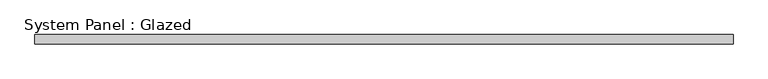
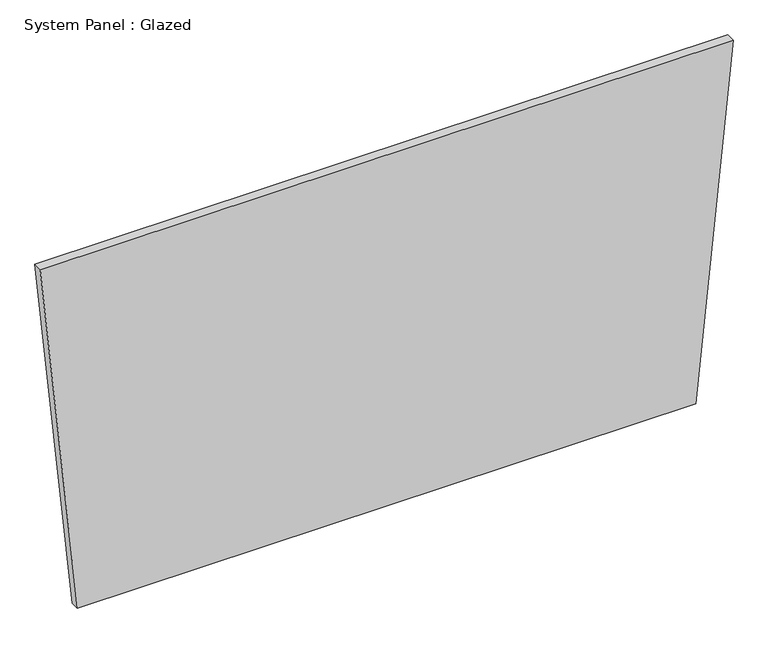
"""IFC4 building model written with IfcOpenShell, lengths in millimetres: plate geometry, System Panel : Glazed."""

import ifcopenshell
import ifcopenshell.guid

model = None  # the IFC model being written
_history = None  # IfcOwnerHistory: only IFC2X3 demands one
_inside = {}  # id of a spatial element -> (the spatial element, [elements in it])
_under = {}  # id of a project, library or spatial element -> (it, [spatial elements below it])
_declared = {}  # id of a project -> (the project, [libraries it declares])
_typed = {}  # id of a type object -> (the type object, [elements of that type])
_made_of = {}  # id of a material, layer set ... -> (it, [elements and type objects made of it])


def new_model(schema):
    """Start an empty IFC model of exactly this schema.

    Asked for "IFC4X3", IfcOpenShell would pick the latest addendum, in which some entities
    have other attributes; the version numbers below select the first issue.
    IFC2X3 requires an IfcOwnerHistory on every rooted entity: one is made here for all.
    """
    global model, _history
    if schema == "IFC4X3":
        model = ifcopenshell.file(schema_version=(4, 3, 0, 0))
    else:
        model = ifcopenshell.file(schema=schema)
    _inside.clear()
    _under.clear()
    _declared.clear()
    _typed.clear()
    _made_of.clear()
    _history = None
    if model.schema == "IFC2X3":
        org = make("IfcOrganization", Name="unknown")
        user = make(
            "IfcPersonAndOrganization",
            ThePerson=make("IfcPerson", FamilyName="unknown"),
            TheOrganization=org,
        )
        app = make(
            "IfcApplication",
            ApplicationDeveloper=org,
            Version="unknown",
            ApplicationFullName="unknown",
            ApplicationIdentifier="unknown",
        )
        _history = make(
            "IfcOwnerHistory",
            OwningUser=user,
            OwningApplication=app,
            ChangeAction="ADDED",
            CreationDate=0,
        )
    return model


def make(cls, **values):
    """One entity of the class cls with the attributes given. An attribute that is None is left unset."""
    return model.create_entity(
        cls, **{name: value for name, value in values.items() if value is not None}
    )


def rooted(cls, **values):
    """An entity with a GlobalId (a new one), such as an element, a storey or a relation."""
    return make(cls, GlobalId=ifcopenshell.guid.new(), OwnerHistory=_history, **values)


def si_unit(unit_type, name, prefix=None):
    """IfcSIUnit, for example si_unit("LENGTHUNIT", "METRE", prefix="MILLI")."""
    return make("IfcSIUnit", UnitType=unit_type, Prefix=prefix, Name=name)


def assignment(units):
    """IfcUnitAssignment: the units of a project."""
    return None if units is None else make("IfcUnitAssignment", Units=units)


def point(xyz):
    """IfcCartesianPoint."""
    return None if xyz is None else make("IfcCartesianPoint", Coordinates=xyz)


def direction(xyz):
    """IfcDirection."""
    return None if xyz is None else make("IfcDirection", DirectionRatios=xyz)


def frame(location, z_axis=None, x_axis=None):
    """IfcAxis2Placement3D, a coordinate frame: its origin and axes. An axis left out is left unset."""
    return make(
        "IfcAxis2Placement3D",
        Location=point(location),
        Axis=direction(z_axis),
        RefDirection=direction(x_axis),
    )


def origin():
    """The frame at (0, 0, 0) with its axes left unset."""
    return frame((0.0, 0.0, 0.0))


def place(relative_to, where):
    """IfcLocalPlacement: puts the frame where relative to a parent placement (None: the world)."""
    return make(
        "IfcLocalPlacement", PlacementRelTo=relative_to, RelativePlacement=where
    )


def context(
    kind, dimensions, precision=None, world=None, true_north=None, identifier=None
):
    """IfcGeometricRepresentationContext, for example the 3D "Model" context."""
    return make(
        "IfcGeometricRepresentationContext",
        ContextIdentifier=identifier,
        ContextType=kind,
        CoordinateSpaceDimension=dimensions,
        Precision=precision,
        WorldCoordinateSystem=world,
        TrueNorth=true_north,
    )


def project(units=None, contexts=None):
    """IfcProject with its units and contexts."""
    return rooted(
        "IfcProject",
        Name="project",
        RepresentationContexts=contexts,
        UnitsInContext=assignment(units),
    )


def spatial(cls, under=None, at=None, **own):
    """A site, building, storey or space (cls), placed at a placement, below another one or the project."""
    s = rooted(cls, ObjectPlacement=at, **own)
    if under is not None:
        _under.setdefault(under.id(), (under, []))[1].append(s)
    return s


def polyline(points):
    """IfcPolyline through the points."""
    return make("IfcPolyline", Points=[point(p) for p in points])


def outline(outer, holes=None, kind="AREA"):
    """IfcArbitraryClosedProfileDef: a profile drawn as a closed curve; with holes, ...WithVoids."""
    if holes is None:
        return make("IfcArbitraryClosedProfileDef", ProfileType=kind, OuterCurve=outer)
    return make(
        "IfcArbitraryProfileDefWithVoids",
        ProfileType=kind,
        OuterCurve=outer,
        InnerCurves=holes,
    )


def extrude(swept, where, along, depth):
    """IfcExtrudedAreaSolid: the profile swept, set in the frame where, extruded along a direction by depth."""
    return make(
        "IfcExtrudedAreaSolid",
        SweptArea=swept,
        Position=where,
        ExtrudedDirection=direction(along),
        Depth=depth,
    )


def shape(context_of_items, identifier, shape_type, items):
    """IfcShapeRepresentation: the items that make up one representation, for example the "Body"."""
    return make(
        "IfcShapeRepresentation",
        ContextOfItems=context_of_items,
        RepresentationIdentifier=identifier,
        RepresentationType=shape_type,
        Items=items,
    )


def source(mapping_origin, context_of_items, identifier, shape_type, items):
    """IfcRepresentationMap: a shape defined once, which mapped items show again and again."""
    return make(
        "IfcRepresentationMap",
        MappingOrigin=mapping_origin,
        MappedRepresentation=shape(context_of_items, identifier, shape_type, items),
    )


def transform(
    local_origin,
    x_axis=None,
    y_axis=None,
    z_axis=None,
    scale=None,
    scale2=None,
    scale3=None,
    uniform=True,
):
    """IfcCartesianTransformationOperator3D, or its non-uniform kind. x_axis, y_axis, z_axis: its Axis1, 2, 3."""
    if uniform:
        return make(
            "IfcCartesianTransformationOperator3D",
            Axis1=direction(x_axis),
            Axis2=direction(y_axis),
            LocalOrigin=point(local_origin),
            Scale=scale,
            Axis3=direction(z_axis),
        )
    return make(
        "IfcCartesianTransformationOperator3DnonUniform",
        Axis1=direction(x_axis),
        Axis2=direction(y_axis),
        LocalOrigin=point(local_origin),
        Scale=scale,
        Axis3=direction(z_axis),
        Scale2=scale2,
        Scale3=scale3,
    )


def mapped(mapping_source, mapping_target):
    """IfcMappedItem: shows the shape of a source again, moved by a transform."""
    return make(
        "IfcMappedItem", MappingSource=mapping_source, MappingTarget=mapping_target
    )


def made_of(thing, what):
    """Note that an element or type object is made of a material, layer set ...; save() writes the relation."""
    if what is not None:
        _made_of.setdefault(what.id(), (what, []))[1].append(thing)
    return thing


def element(
    cls,
    number,
    at=None,
    inside=None,
    cuts=None,
    type_object=None,
    material=None,
    context=None,
    identifier="Body",
    shape_type=None,
    held_by="IfcProductDefinitionShape",
    body=None,
    shapes=None,
    **own,
):
    """One element of the class cls, such as IfcWall. Its Tag is "e" and its number.

    at: its placement. inside: the storey or other place that contains it. cuts: it is an
    opening in that element (IfcRelVoidsElement). A single representation is given by context,
    identifier, shape_type and body (its items); several are given by shapes. held_by: the class
    of the entity that holds the representations. save() writes the other relations.
    """
    e = rooted(cls, Tag="e%d" % number, ObjectPlacement=at, **own)
    if body is not None:
        shapes = [shape(context, identifier, shape_type, body)]
    if shapes is not None:
        e.Representation = make(held_by, Representations=shapes)
    if inside is not None:
        _inside.setdefault(inside.id(), (inside, []))[1].append(e)
    if cuts is not None:
        rooted(
            "IfcRelVoidsElement", RelatingBuildingElement=cuts, RelatedOpeningElement=e
        )
    if type_object is not None:
        _typed.setdefault(type_object.id(), (type_object, []))[1].append(e)
    return made_of(e, material)


def aggregate(whole, parts):
    """IfcRelAggregates: a whole, such as a stair, and the parts it consists of."""
    return rooted("IfcRelAggregates", RelatingObject=whole, RelatedObjects=parts)


def save(model, path):
    """Write the relations noted so far, then the file.

    IfcRelAggregates (storeys below a building ...), IfcRelContainedInSpatialStructure (elements
    in a storey), IfcRelDefinesByType, IfcRelAssociatesMaterial and IfcRelDeclares: one each for
    every whole, place, type object, material and project.
    """
    for whole, parts in _under.values():
        aggregate(whole, parts)
    for where, things in _inside.values():
        rooted(
            "IfcRelContainedInSpatialStructure",
            RelatedElements=things,
            RelatingStructure=where,
        )
    for kind, things in _typed.values():
        rooted("IfcRelDefinesByType", RelatedObjects=things, RelatingType=kind)
    for what, things in _made_of.values():
        rooted("IfcRelAssociatesMaterial", RelatedObjects=things, RelatingMaterial=what)
    for by, libraries in _declared.values():
        rooted("IfcRelDeclares", RelatingContext=by, RelatedDefinitions=libraries)
    model.write(path)


def system_panel_glazed_3d384c18(model_context):
    return source(origin(), model_context, "Body", "SweptSolid", [
        extrude(outline(polyline([(0.0, -845.398708), (0.0, 845.398708), (1014.7476563, 947.3400121), (1014.7476563, -947.3400121), (0.0, -845.398708)])), frame((0.0, -49.5, 0.0), z_axis=(0.0, 1.0, 0.0), x_axis=(0.0, 0.0, 1.0)), (0.0, 0.0, 1.0), 25.0),
    ])


if __name__ == "__main__":
    model = new_model("IFC4")
    model_context = context("Model", 3, world=origin())
    ifc_project = project(units=[si_unit("LENGTHUNIT", "METRE", prefix="MILLI")], contexts=[model_context])
    site = spatial("IfcSite", under=ifc_project)
    building = spatial("IfcBuilding", under=site)
    placement = place(None, origin())
    system_panel_glazed_shape = system_panel_glazed_3d384c18(model_context)
    element("IfcPlate", 1, ObjectType="System Panel : Glazed", at=placement, inside=building, context=model_context, shape_type="MappedRepresentation", body=[
        mapped(system_panel_glazed_shape, transform((0.0, 0.0, 0.0), x_axis=(1.0, 0.0, 0.0), y_axis=(0.0, 1.0, 0.0), z_axis=(0.0, 0.0, 1.0))),
    ])
    save(model, "model.ifc")
